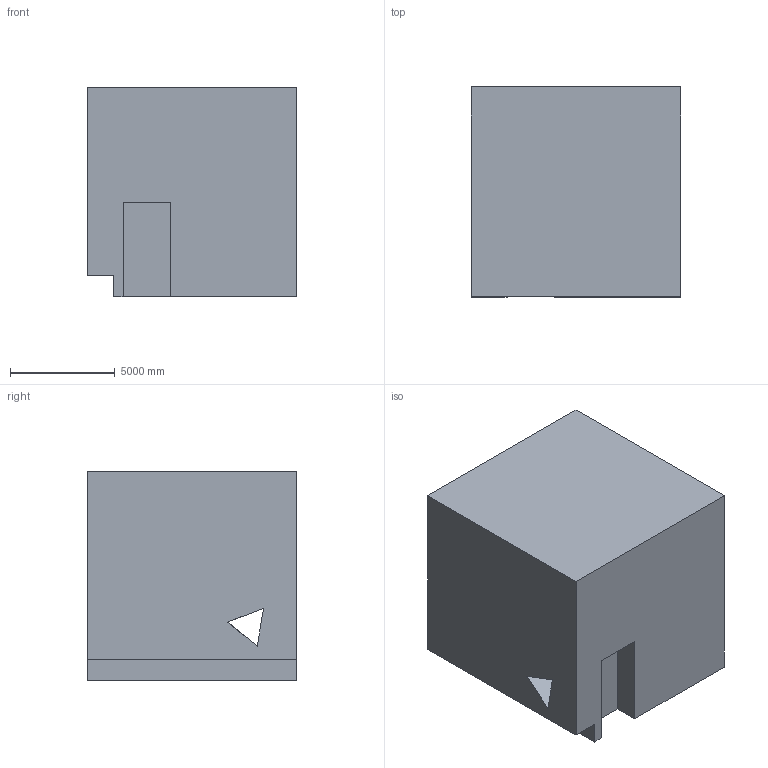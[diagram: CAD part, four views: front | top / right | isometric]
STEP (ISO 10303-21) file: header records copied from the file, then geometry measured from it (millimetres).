
FILE_DESCRIPTION (( 'STEP AP203' ), '1' );
FILE_NAME ('1492.STEP', '2022-08-18T14:48:31', ( 'user' ), ( '' ), 'SwSTEP 2.0', 'SolidWorks 2021', '' );
FILE_SCHEMA (( 'CONFIG_CONTROL_DESIGN' ));
Length unit declared in the file: centimetre
Products named in the file (1): 1492
Bounding box: 10000 x 10000 x 10000 mm (x, y, z)
Volume: 902617630418.3 mm3; surface area: 747331522.7 mm2
Topology: 1 solids, 1 shells, 26 faces, 75 edges, 50 vertices
Faces by surface type: plane 24, cylinder 2
Entity records: 932 total; most frequent: CARTESIAN_POINT 176, ORIENTED_EDGE 150, DIRECTION 125, EDGE_CURVE 75, VECTOR 63, LINE 63, VERTEX_POINT 50, AXIS2_PLACEMENT_3D 31
